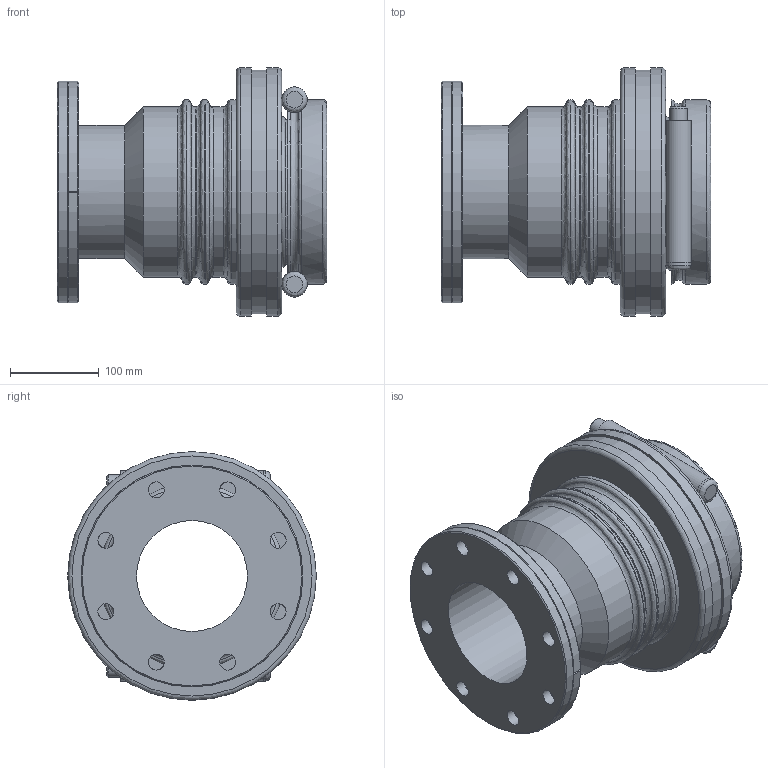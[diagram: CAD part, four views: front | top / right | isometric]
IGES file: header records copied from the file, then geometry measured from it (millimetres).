
Global section: file name: 072206160050_0722061600500A.ipt; native system: Autodesk Inventor 2015; preprocessor: unknown; author: KIM; date: 20170618.093357; units: millimetre
Bounding box: 304 x 280 x 280 mm (x, y, z)
Volume: 5363621.9 mm3; surface area: 537053 mm2
Topology: 1 solids, 1 shells, 115 faces, 317 edges, 214 vertices
Faces by surface type: revolution 60, plane 24, cylinder 22, cone 9
Full cylindrical faces by diameter (mm): 20.16 x2, 28.6 x2, 28.8 x2, 150 x1, 192 x3, 208 x4, 250 x1, 274.4 x1, 280 x2
